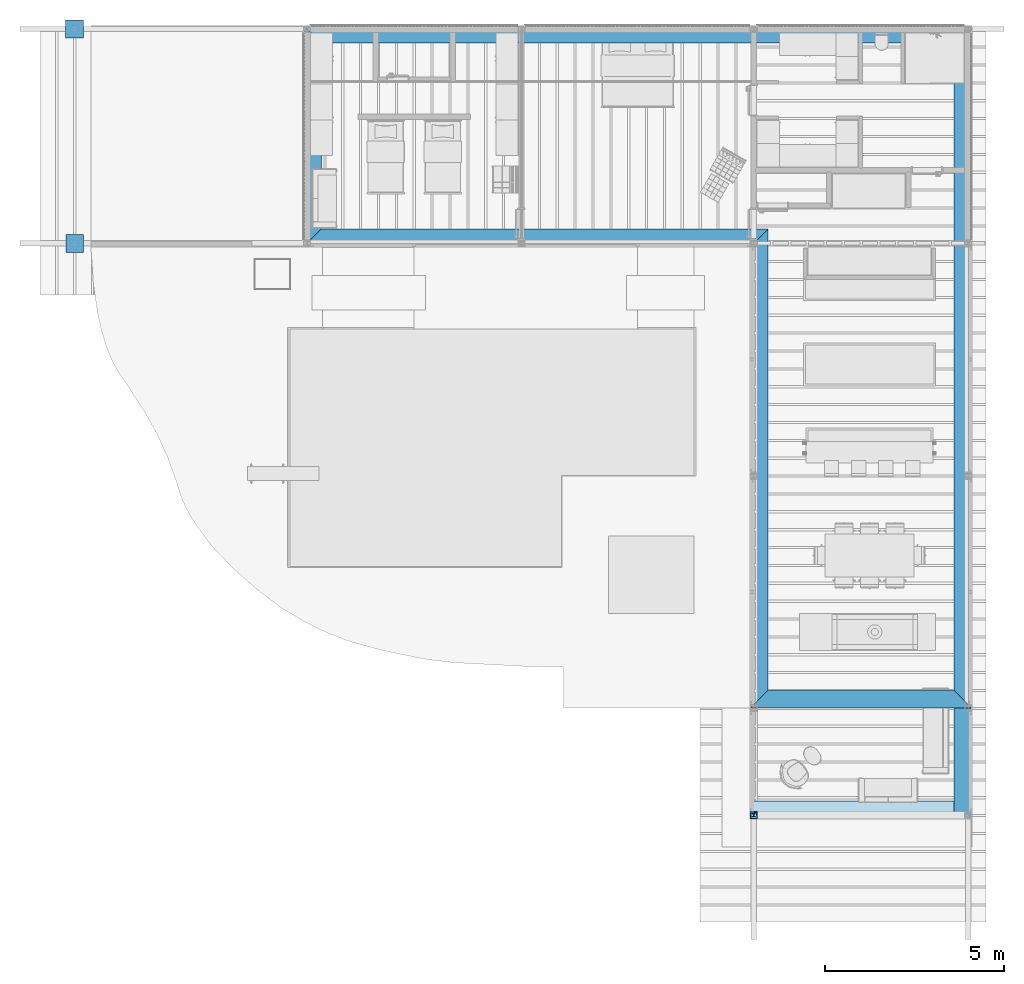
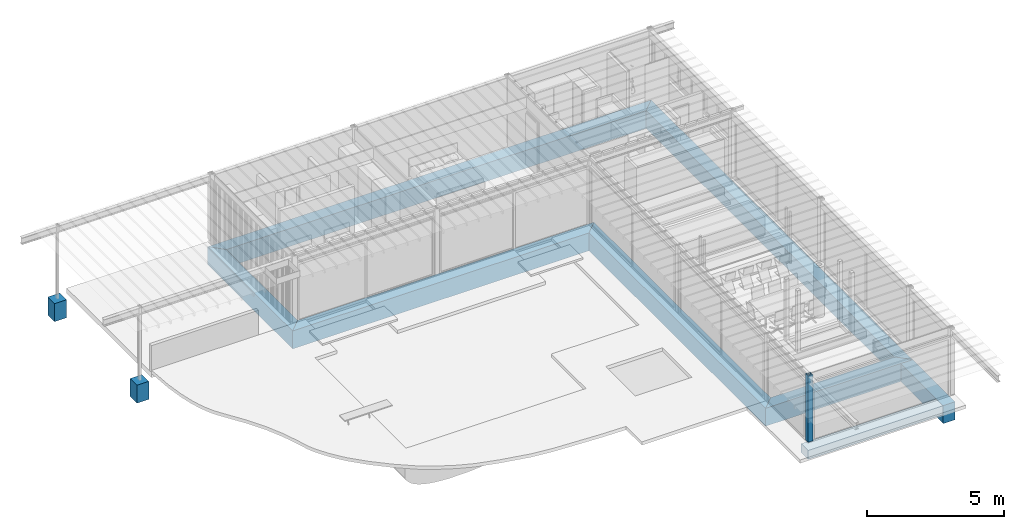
# One storey, part 1 of 28: 10 footings, 1 column.
"""IFC4X3_ADD2 building model written with IfcOpenShell, lengths in metres."""

from ifc_helpers import new_model, si_unit, direction, frame, frame_2d, origin_with_axes, origin_2d_with_axis, place, context, subcontext, project, spatial, polyline, rectangle, outline, extrude, faceted_brep, source, transform, mapped, material, type_object, type_shapes, element, save


model = new_model("IFC4X3_ADD2")

# Units and contexts
model_context = context("Model", 3, precision=1e-05, world=origin_with_axes(), true_north=direction((0.0, 1.0)))
body_context = subcontext(model_context, "Body", "Model", "MODEL_VIEW")
ifc_project = project(units=[si_unit("LENGTHUNIT", "METRE"), si_unit("AREAUNIT", "SQUARE_METRE"), si_unit("VOLUMEUNIT", "CUBIC_METRE"), si_unit("PLANEANGLEUNIT", "RADIAN"), si_unit("TIMEUNIT", "SECOND"), si_unit("MASSUNIT", "GRAM")], contexts=[model_context])

# Site, building, storey
site_placement = place(None, origin_with_axes())
site = spatial("IfcSite", under=ifc_project, at=site_placement, Name="Site", CompositionType="ELEMENT")
building_placement = place(site_placement, origin_with_axes())
building = spatial("IfcBuilding", under=site, at=building_placement, Name="Default Building")
storey_placement = place(building_placement, frame((0.0, 0.0, -0.08), z_axis=(0.0, 0.0, 1.0), x_axis=(1.0, 0.0, 0.0)))
storey = spatial("IfcBuildingStorey", under=building, at=storey_placement, Name="Gruendung", Elevation=-0.08)

# Footings
ifc_material_1 = material(Name="W-Streifenfundament")
footing_1_placement = place(storey_placement, frame((6.39971660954, 22.1, -1.08), z_axis=(0.0, 0.0, 1.0), x_axis=(0.0, -1.0, 0.0)))
element("IfcFooting", 1, at=footing_1_placement, inside=storey, material=ifc_material_1, PredefinedType="STRIP_FOOTING", context=body_context, shape_type="SweptSolid", body=[
    extrude(outline(polyline([(3.1, -0.25), (-3.100000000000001, -0.25), (-2.600000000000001, 0.25), (2.600000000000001, 0.25), (3.1, -0.25)])), frame((3.100000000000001, 0.25, 0.0), z_axis=(0.0, 0.0, 1.0), x_axis=(1.0, 0.0, 0.0)), (0.0, 0.0, 1.0), 0.7999999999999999),
])
footing_2_placement = place(storey_placement, frame((6.39971660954, 21.6, -1.08), z_axis=(0.0, 0.0, 1.0), x_axis=(1.0, 0.0, 0.0)))
element("IfcFooting", 2, at=footing_2_placement, inside=storey, material=ifc_material_1, PredefinedType="STRIP_FOOTING", context=body_context, shape_type="SweptSolid", body=[
    extrude(outline(polyline([(-9.3501415, 0.25), (9.3501415, 0.25), (8.8501415, -0.25), (-8.8501415, -0.25), (-9.3501415, 0.25)])), frame((9.3501415, 0.25, 0.0), z_axis=(0.0, 0.0, 1.0), x_axis=(1.0, 0.0, 0.0)), (0.0, 0.0, 1.0), 0.7999999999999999),
])
footing_3_placement = place(storey_placement, frame((24.6, 22.1, -1.08), z_axis=(0.0, 0.0, 1.0), x_axis=(0.0, -1.0, 0.0)))
element("IfcFooting", 3, at=footing_3_placement, inside=storey, material=ifc_material_1, PredefinedType="STRIP_FOOTING", context=body_context, shape_type="SweptSolid", body=[
    extrude(outline(polyline([(9.55, 0.25), (9.05, -0.25), (-9.05, -0.25), (-9.55, 0.25), (9.55, 0.25)])), frame((9.55, 0.25, 0.0), z_axis=(0.0, 0.0, 1.0), x_axis=(1.0, 0.0, 0.0)), (0.0, 0.0, 1.0), 0.7999999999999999),
])
footing_4_placement = place(storey_placement, frame((18.9, 16.4, -1.08), z_axis=(0.0, 0.0, 1.0), x_axis=(0.0, -1.0, 0.0)))
element("IfcFooting", 4, at=footing_4_placement, inside=storey, material=ifc_material_1, PredefinedType="STRIP_FOOTING", context=body_context, shape_type="SweptSolid", body=[
    extrude(outline(polyline([(6.699999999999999, -0.25), (-6.200000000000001, -0.25), (-6.699999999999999, 0.25), (6.199999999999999, 0.25), (6.699999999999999, -0.25)])), frame((6.699999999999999, 0.25, 0.0), z_axis=(0.0, 0.0, 1.0), x_axis=(1.0, 0.0, 0.0)), (0.0, 0.0, 1.0), 0.7999999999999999),
])
footing_5_placement = place(storey_placement, frame((6.399717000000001, 15.9, -1.08), z_axis=(0.0, 0.0, 1.0), x_axis=(1.0, 0.0, 0.0)))
element("IfcFooting", 5, at=footing_5_placement, inside=storey, material=ifc_material_1, PredefinedType="STRIP_FOOTING", context=body_context, shape_type="SweptSolid", body=[
    extrude(outline(polyline([(6.000141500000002, -0.2499999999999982), (-6.5001415, -0.2499999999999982), (-6.0001415, 0.25), (6.500141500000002, 0.25), (6.000141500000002, -0.2499999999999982)])), frame((6.5001415, 0.2499999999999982, 0.0), z_axis=(0.0, 0.0, 1.0), x_axis=(1.0, 0.0, 0.0)), (0.0, 0.0, 1.0), 0.7999999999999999),
])
for number, where, z_axis, x_axis in (
    (6, (-0.25, 16.25, -1.08), (0.0, 0.0, 1.0), (0.0, -1.0, 0.0)),
    (7, (-0.2565, 22.25, -1.08), (0.0, 0.0, 1.0), (0.0, -1.0, 0.0)),
):
    element("IfcFooting", number, at=place(storey_placement, frame(where, z_axis=z_axis, x_axis=x_axis)), inside=storey, material=ifc_material_1, PredefinedType="PAD_FOOTING", context=body_context, shape_type="SweptSolid", body=[
        extrude(rectangle(XDim=0.5, YDim=0.5, at=frame_2d((0.0, 0.0), x_axis=(0.0, 1.0))), frame((0.25, 0.25, 0.0), z_axis=(0.0, 0.0, 1.0), x_axis=(1.0, 0.0, 0.0)), (0.0, 0.0, 1.0), 0.7999999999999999),
    ])
footing_6_placement = place(storey_placement, frame((18.9, 3.0, -1.08), z_axis=(0.0, 0.0, 1.0), x_axis=(1.0, 0.0, 0.0)))
element("IfcFooting", 8, at=footing_6_placement, inside=storey, material=ifc_material_1, PredefinedType="STRIP_FOOTING", context=body_context, shape_type="SweptSolid", body=[
    extrude(outline(polyline([(3.1, -0.25), (-3.100000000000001, -0.25), (-2.600000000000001, 0.25), (2.600000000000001, 0.25), (3.1, -0.25)])), frame((3.100000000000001, 0.25, 0.0), z_axis=(0.0, 0.0, 1.0), x_axis=(1.0, 0.0, 0.0)), (0.0, 0.0, 1.0), 0.7999999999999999),
])
footing_7_placement = place(storey_placement, frame((18.9, -0.1, -0.68), z_axis=(0.0, 0.0, 1.0), x_axis=(1.0, 0.0, 0.0)))
element("IfcFooting", 9, at=footing_7_placement, inside=storey, material=ifc_material_1, PredefinedType="STRIP_FOOTING", context=body_context, shape_type="SweptSolid", body=[
    extrude(rectangle(XDim=5.949999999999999, YDim=0.5, at=origin_2d_with_axis()), frame((2.974999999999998, 0.25, 0.0), z_axis=(0.0, 0.0, 1.0), x_axis=(1.0, 0.0, 0.0)), (0.0, 0.0, 1.0), 0.4),
])
footing_8_placement = place(storey_placement, frame((24.6, 3.0, -1.08), z_axis=(0.0, 0.0, 1.0), x_axis=(0.0, -1.0, 0.0)))
element("IfcFooting", 10, at=footing_8_placement, inside=storey, material=ifc_material_1, PredefinedType="STRIP_FOOTING", context=body_context, shape_type="SweptSolid", body=[
    extrude(rectangle(XDim=3.1, YDim=0.5, at=frame_2d((0.0, 0.0), x_axis=(-1.0, 0.0))), frame((1.55, 0.25, 0.0), z_axis=(0.0, 0.0, 1.0), x_axis=(1.0, 0.0, 0.0)), (0.0, 0.0, 1.0), 0.7999999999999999),
])

# Column
ifc_material_2 = material(Name="Default")
column_type = type_object("IfcColumnType", Name="IfcColumn1", PredefinedType="NOTDEFINED")
shared_shape = source(origin_with_axes(), body_context, "Body", "SolidModel", [
    extrude(outline(polyline([(-0.0499995, -0.04799997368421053), (-0.0499995, -0.03999997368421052), (-0.0144995, -0.03999997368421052), (-0.0133235, -0.03994197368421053), (-0.0121585, -0.03976897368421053), (-0.0110165, -0.03948297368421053), (-0.0099075, -0.03908697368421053), (-0.0088425, -0.03858297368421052), (-0.0078325, -0.03797797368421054), (-0.006886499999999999, -0.03727597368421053), (-0.006014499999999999, -0.03648497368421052), (-0.005223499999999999, -0.03561297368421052), (-0.004521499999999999, -0.03466697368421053), (-0.003916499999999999, -0.03365697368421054), (-0.003412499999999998, -0.03259197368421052), (-0.003016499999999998, -0.03148297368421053), (-0.002730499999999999, -0.03034097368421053), (-0.002557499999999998, -0.02917597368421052), (-0.002499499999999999, -0.02799997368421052), (-0.002499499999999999, 0.02800002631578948), (-0.002557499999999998, 0.02917602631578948), (-0.002730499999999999, 0.03034102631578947), (-0.003016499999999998, 0.03148302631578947), (-0.003412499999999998, 0.03259202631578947), (-0.003916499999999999, 0.03365702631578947), (-0.004521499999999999, 0.03466702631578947), (-0.005223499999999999, 0.03561302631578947), (-0.006014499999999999, 0.03648502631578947), (-0.006886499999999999, 0.03727602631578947), (-0.0078325, 0.03797802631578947), (-0.0088425, 0.03858302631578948), (-0.0099075, 0.03908702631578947), (-0.0110165, 0.03948302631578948), (-0.0121585, 0.03976902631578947), (-0.0133235, 0.03994202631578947), (-0.0144995, 0.04000002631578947), (-0.0499995, 0.04000002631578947), (-0.0499995, 0.04799902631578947), (0.0499995, 0.04799902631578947), (0.0499995, 0.04000002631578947), (0.0144995, 0.04000002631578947), (0.0133235, 0.03994202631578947), (0.0121585, 0.03976902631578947), (0.0110165, 0.03948302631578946), (0.009907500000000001, 0.03908702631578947), (0.008842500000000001, 0.03858302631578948), (0.007832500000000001, 0.03797802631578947), (0.006886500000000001, 0.03727602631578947), (0.006014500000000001, 0.03648502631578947), (0.005223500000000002, 0.03561302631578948), (0.004521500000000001, 0.03466702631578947), (0.003916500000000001, 0.03365702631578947), (0.003412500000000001, 0.03259202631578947), (0.003016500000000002, 0.03148302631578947), (0.002730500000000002, 0.03034102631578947), (0.002557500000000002, 0.02917602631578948), (0.002499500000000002, 0.02800002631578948), (0.002499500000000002, -0.02799997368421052), (0.002557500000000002, -0.02917597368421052), (0.002730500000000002, -0.03034097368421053), (0.003016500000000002, -0.03148297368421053), (0.003412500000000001, -0.03259197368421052), (0.003916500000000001, -0.03365697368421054), (0.004521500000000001, -0.03466697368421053), (0.005223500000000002, -0.03561297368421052), (0.006014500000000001, -0.03648497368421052), (0.006886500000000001, -0.03727597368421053), (0.007832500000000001, -0.03797797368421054), (0.008842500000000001, -0.03858297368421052), (0.009907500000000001, -0.03908697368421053), (0.0110165, -0.03948297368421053), (0.0121585, -0.03976897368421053), (0.0133235, -0.03994197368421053), (0.0144995, -0.03999997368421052), (0.0499995, -0.03999997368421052), (0.0499995, -0.04799997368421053), (-0.0499995, -0.04799997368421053)])), frame((4.999999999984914e-07, 9.736842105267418e-07, 0.0), z_axis=(0.0, 0.0, 1.0), x_axis=(1.0, 0.0, 0.0)), (0.0, 0.0, 1.0), 2.960000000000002),
    faceted_brep([(-0.09999899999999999, 0.1, 2.96), (0.1, 0.1, 2.96), (0.1, 0.1, 0.0), (-0.09999899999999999, 0.1, 0.0), (0.1, -0.09999899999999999, 2.96), (0.1, -0.09999899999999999, 0.0), (-0.09999899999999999, -0.09999899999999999, 2.96), (-0.09999899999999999, -0.09999899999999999, 0.0), (0.08, -0.079999, 2.96), (0.08, 0.08, 2.96), (0.08, 0.08, 0.0), (0.08, -0.079999, 0.0), (-0.079999, 0.08, 2.96), (-0.079999, 0.08, 0.0), (-0.079999, -0.079999, 2.96), (-0.079999, -0.079999, 0.0)], [[[0, 1, 2, 3]], [[1, 4, 5, 2]], [[4, 6, 7, 5]], [[6, 0, 3, 7]], [[8, 9, 10, 11]], [[9, 12, 13, 10]], [[12, 14, 15, 13]], [[14, 8, 11, 15]], [[9, 8, 14, 12], [1, 0, 6, 4]], [[15, 11, 10, 13], [7, 3, 2, 5]]], outer=[[True], [True], [True], [True], [True], [True], [True], [True], [False, True], [False, True]]),
])
type_shapes(column_type, [shared_shape])
column_placement = place(storey_placement, frame((19.0, 0.0, 0.08), z_axis=(0.0, 0.0, 1.0), x_axis=(-1.0, 0.0, 0.0)))
element("IfcColumn", 11, at=column_placement, inside=storey, type_object=column_type, material=ifc_material_2, Name="IfcColumn", ObjectType="C_Kopfplatte", context=body_context, shape_type="MappedRepresentation", body=[
    mapped(shared_shape, transform((0.0, 0.0, 0.0))),
])

save(model, "model.ifc")
